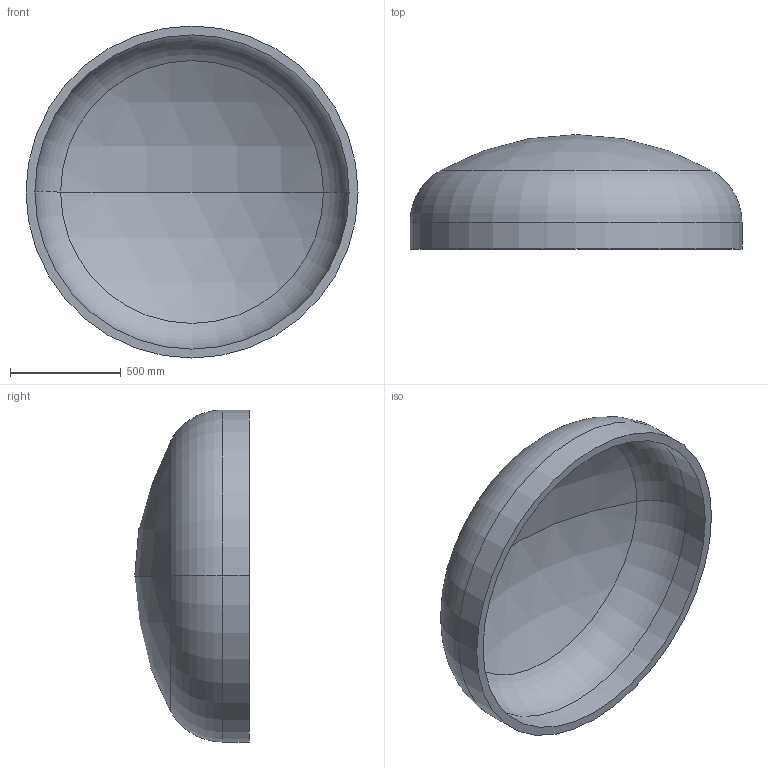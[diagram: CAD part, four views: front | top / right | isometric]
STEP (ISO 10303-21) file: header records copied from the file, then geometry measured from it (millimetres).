
FILE_DESCRIPTION (( 'STEP AP203' ), '1' );
FILE_NAME ('DIN 28013 Korbbogenform_-_Boden DIN 28013 - 1500 x 120 - I - s=40.step', '2016-07-01T10:45:39', ( '' ), ( '' ), 'SwSTEP 2.0', 'SolidWorks 2013', '' );
FILE_SCHEMA (( 'CONFIG_CONTROL_DESIGN' ));
Length unit declared in the file: millimetre
Products named in the file (1): DIN 28013 Korbbogenform_-_Boden DIN 28013 - 1500 x 120 - I - s=40
Bounding box: 1500 x 517.09 x 1500 mm (x, y, z)
Volume: 116472615.4 mm3; surface area: 6010449.1 mm2
Topology: 1 solids, 1 shells, 13 faces, 24 edges, 14 vertices
Faces by surface type: torus 4, cylinder 4, sphere 4, plane 1
Entity records: 407 total; most frequent: DIRECTION 72, CARTESIAN_POINT 52, ORIENTED_EDGE 48, AXIS2_PLACEMENT_3D 34, EDGE_CURVE 24, CIRCLE 20, VERTEX_POINT 14, EDGE_LOOP 14
